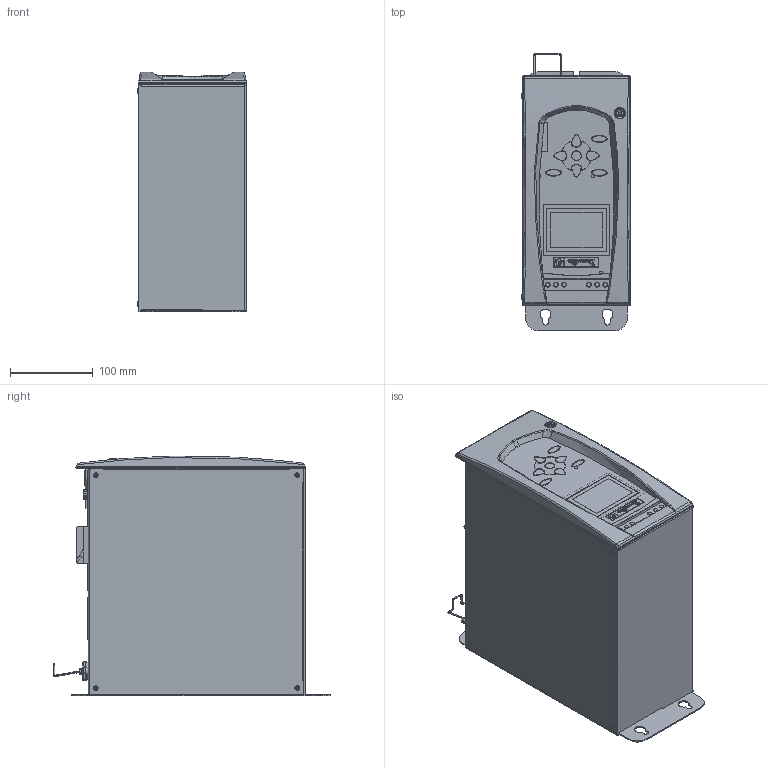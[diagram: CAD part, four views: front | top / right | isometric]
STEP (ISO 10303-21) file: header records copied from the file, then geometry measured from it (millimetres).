
FILE_DESCRIPTION((''),'2;1');
FILE_NAME('6159326820-01','2010-02-11T',('fbaufreton'),(''),'PRO/ENGINEER BY PARAMETRIC TECHNOLOGY CORPORATION, 2009300','PRO/ENGINEER BY PARAMETRIC TECHNOLOGY CORPORATION, 2009300','');
FILE_SCHEMA(('AUTOMOTIVE_DESIGN_CC2 { 1 2 10303 214 -1 1 5 2 }'));
Products named in the file (1): 6159326820-01
Bounding box: 131.84 x 336.02 x 290.58 mm (x, y, z)
Surface area: 451295.4 mm2 (no closed solid volume)
Topology: 0 solids, 259 shells, 654 faces, 5341 edges, 4900 vertices
Faces by surface type: plane 373, cylinder 139, bspline 72, torus 37, cone 27, sphere 6
Entity records: 61874 total; most frequent: CARTESIAN_POINT 24358, ORIENTED_EDGE 6035, DIRECTION 5647, EDGE_CURVE 5327, VERTEX_POINT 4900, VECTOR 2625, LINE 2625, B_SPLINE_CURVE_WITH_KNOTS 1773
